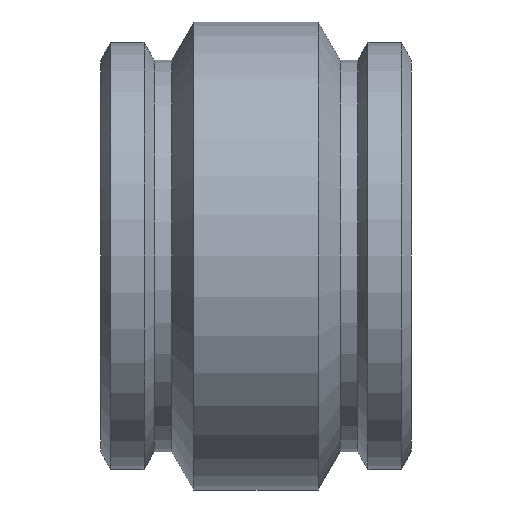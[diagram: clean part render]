
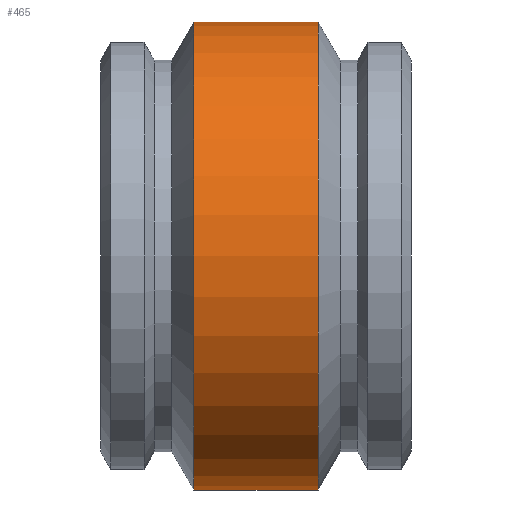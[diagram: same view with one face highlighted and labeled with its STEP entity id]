
A CAD part, front view. The second image highlights one B-rep face of the part: STEP entity #465.
In plain terms, the highlighted cylindrical face has radius 210.312 mm (diameter 420.624 mm), a full revolution.
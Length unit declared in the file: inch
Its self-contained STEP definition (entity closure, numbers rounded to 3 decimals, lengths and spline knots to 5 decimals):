
#51=CIRCLE('',#533,8.28);
#52=CIRCLE('',#534,8.28);
#53=CIRCLE('',#536,8.28);
#54=CIRCLE('',#537,8.28);
#74=CYLINDRICAL_SURFACE('',#535,8.28);
#105=FACE_OUTER_BOUND('',#139,.T.);
#139=EDGE_LOOP('',(#399,#400,#401,#402,#403,#404));
#163=LINE('',#1204,#183);
#183=VECTOR('',#661,8.28);
#231=VERTEX_POINT('',#1194);
#232=VERTEX_POINT('',#1195);
#233=VERTEX_POINT('',#1200);
#234=VERTEX_POINT('',#1201);
#290=EDGE_CURVE('',#231,#232,#51,.T.);
#291=EDGE_CURVE('',#232,#231,#52,.T.);
#293=EDGE_CURVE('',#233,#234,#53,.T.);
#294=EDGE_CURVE('',#234,#233,#54,.T.);
#295=EDGE_CURVE('',#234,#232,#163,.T.);
#399=ORIENTED_EDGE('',*,*,#293,.F.);
#400=ORIENTED_EDGE('',*,*,#294,.F.);
#401=ORIENTED_EDGE('',*,*,#295,.T.);
#402=ORIENTED_EDGE('',*,*,#291,.T.);
#403=ORIENTED_EDGE('',*,*,#290,.T.);
#404=ORIENTED_EDGE('',*,*,#295,.F.);
#465=ADVANCED_FACE('',(#105),#74,.T.);
#533=AXIS2_PLACEMENT_3D('',#1196,#650,#651);
#534=AXIS2_PLACEMENT_3D('',#1197,#652,#653);
#535=AXIS2_PLACEMENT_3D('',#1199,#655,#656);
#536=AXIS2_PLACEMENT_3D('',#1202,#657,#658);
#537=AXIS2_PLACEMENT_3D('',#1203,#659,#660);
#650=DIRECTION('center_axis',(1.,0.,0.));
#651=DIRECTION('ref_axis',(0.,0.,-1.));
#652=DIRECTION('center_axis',(1.,0.,0.));
#653=DIRECTION('ref_axis',(0.,0.,-1.));
#655=DIRECTION('center_axis',(1.,0.,0.));
#656=DIRECTION('ref_axis',(0.,1.,0.));
#657=DIRECTION('center_axis',(1.,0.,0.));
#658=DIRECTION('ref_axis',(0.,0.,-1.));
#659=DIRECTION('center_axis',(1.,0.,0.));
#660=DIRECTION('ref_axis',(0.,0.,-1.));
#661=DIRECTION('',(-1.,0.,0.));
#1194=CARTESIAN_POINT('',(-2.2,8.28,0.));
#1195=CARTESIAN_POINT('',(-2.2,-8.28,0.));
#1196=CARTESIAN_POINT('Origin',(-2.2,0.,0.));
#1197=CARTESIAN_POINT('Origin',(-2.2,0.,0.));
#1199=CARTESIAN_POINT('Origin',(0.,0.,0.));
#1200=CARTESIAN_POINT('',(2.2,8.28,0.));
#1201=CARTESIAN_POINT('',(2.2,-8.28,0.));
#1202=CARTESIAN_POINT('Origin',(2.2,0.,0.));
#1203=CARTESIAN_POINT('Origin',(2.2,0.,0.));
#1204=CARTESIAN_POINT('',(0.,-8.28,0.));
